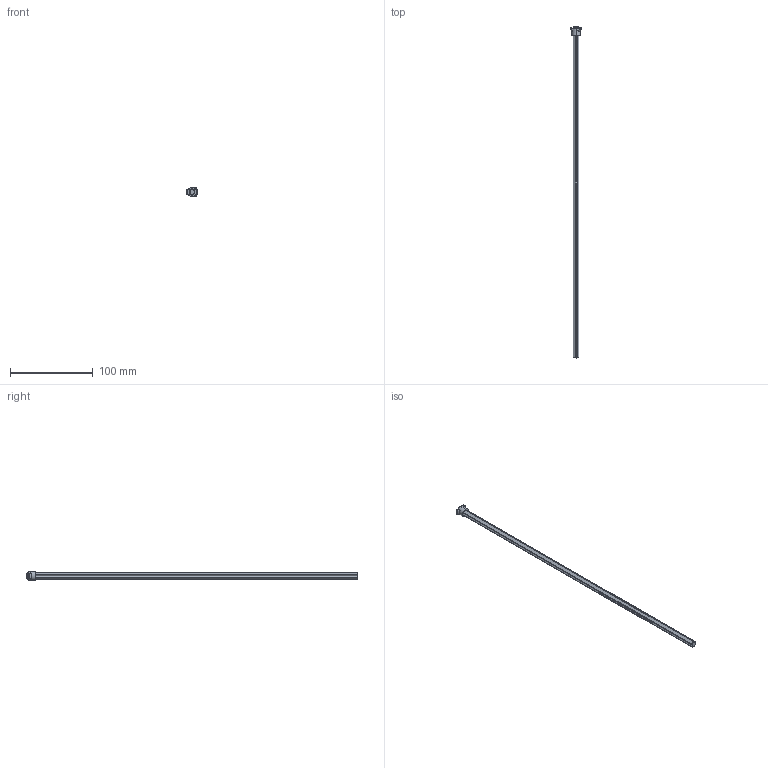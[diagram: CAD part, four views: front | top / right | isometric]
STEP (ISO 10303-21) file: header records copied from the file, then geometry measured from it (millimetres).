
FILE_DESCRIPTION (( 'STEP AP203' ), '1' );
FILE_NAME ('CD8238-1-400.STEP', '2014-05-14T08:28:03', ( '' ), ( '' ), 'SwSTEP 2.0', 'SolidWorks 2014', '' );
FILE_SCHEMA (( 'CONFIG_CONTROL_DESIGN' ));
Length unit declared in the file: millimetre
Products named in the file (1): CD8238-1-400
Bounding box: 14.2 x 402.19 x 10.8 mm (x, y, z)
Volume: 16472.6 mm3; surface area: 10804.4 mm2
Topology: 1 solids, 1 shells, 93 faces, 249 edges, 160 vertices
Faces by surface type: cylinder 34, plane 28, bspline 12, cone 11, torus 6, sphere 2
Entity records: 3457 total; most frequent: CARTESIAN_POINT 1197, ORIENTED_EDGE 498, DIRECTION 414, EDGE_CURVE 249, AXIS2_PLACEMENT_3D 161, VERTEX_POINT 160, EDGE_LOOP 95, ADVANCED_FACE 93
